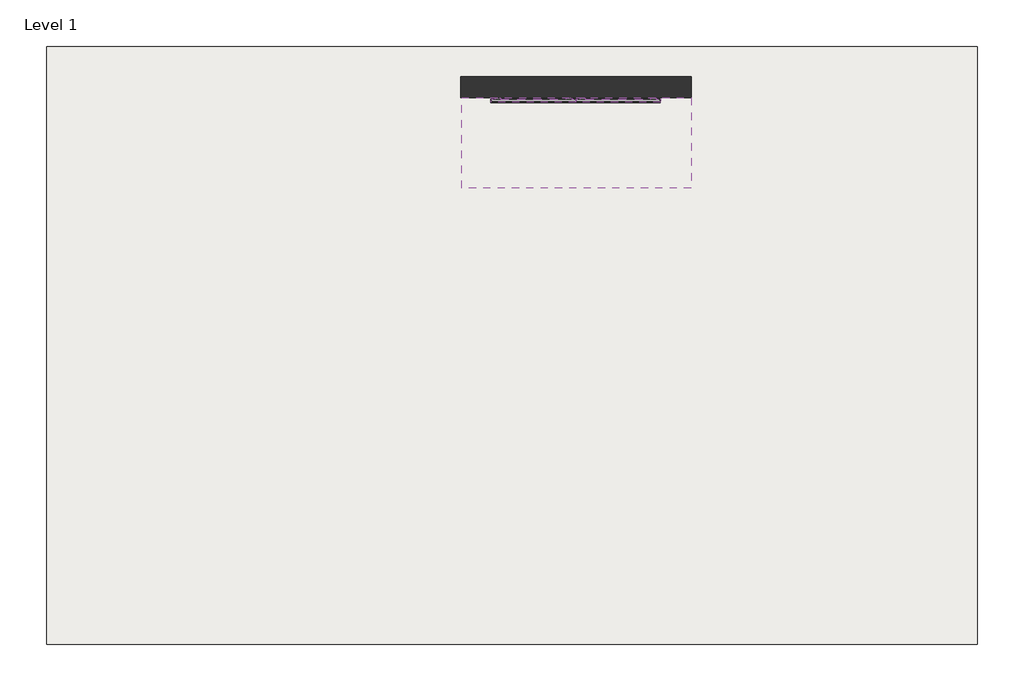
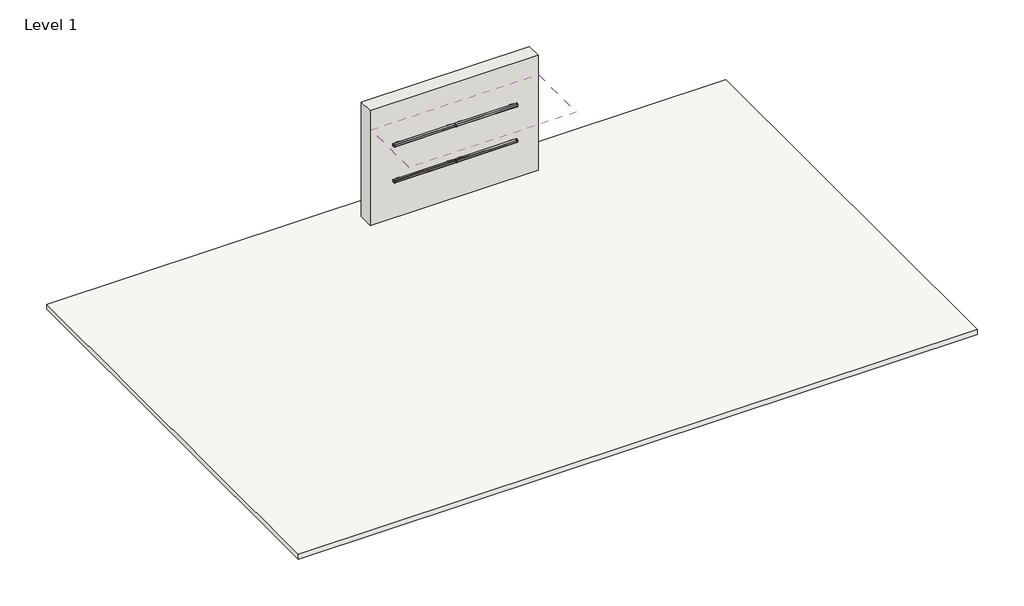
# One storey: 4 light fixtures, 1 covering, 1 slab, 1 wall.
"""IFC4 building model written with IfcOpenShell, lengths in millimetres."""

from ifc_helpers import new_model, si_unit, frame, origin, origin_with_axes, place, context, project, spatial, polyline, outline, extrude, transform, mapped, element, save
from components import lighting_horizontal_mullion_down_axis_extend_2_9a33a1cc, lighting_horizontal_mullion_down_axis_extend_2_30975e11, lighting_horizontal_mullion_out_axis_extend_2_19ae108c, lighting_horizontal_mullion_out_axis_extend_2_a2abfac1

model = new_model("IFC4")

# Units and contexts
model_context = context("Model", 3, world=origin())
ifc_project = project(units=[si_unit("LENGTHUNIT", "METRE", prefix="MILLI")], contexts=[model_context])

# Site, building, storey
site = spatial("IfcSite", under=ifc_project)
building = spatial("IfcBuilding", under=site)
storey = spatial("IfcBuildingStorey", under=building, Name="Level 1", Elevation=0.0)

# Covering
placement = place(None, origin())
element("IfcCovering", 1, ObjectType="Plain", at=placement, inside=storey, context=model_context, shape_type="SweptSolid", body=[
    extrude(outline(polyline([(-3780.5571266, 5992.4697047), (1248.6428734, 5992.4697047), (1248.6428734, 4011.2697047), (-3780.5571266, 4011.2697047), (-3780.5571266, 5992.4697047)])), frame((0.0, 0.0, 3048.0), z_axis=(0.0, 0.0, 1.0), x_axis=(1.0, 0.0, 0.0)), (0.0, 0.0, 1.0), 12.7),
])

# Light fixtures
lighting_horizontal_mullion_down_axis_extend_2_shape = lighting_horizontal_mullion_down_axis_extend_2_9a33a1cc(model_context)
element("IfcLightFixture", 2, ObjectType="Lighting-Horizontal Mullion Down-Axis-Extend_2 : EX2WD-900-80-35-SO-4", at=placement, inside=storey, context=model_context, shape_type="MappedRepresentation", body=[
    mapped(lighting_horizontal_mullion_down_axis_extend_2_shape, transform((-2203.3542704, 5992.4697047, 2323.6), x_axis=(1.0, 0.0, 0.0), y_axis=(0.0, 0.0, 1.0), z_axis=(0.0, -1.0, 0.0))),
])
lighting_horizontal_mullion_down_axis_extend_2_2_shape = lighting_horizontal_mullion_down_axis_extend_2_30975e11(model_context)
element("IfcLightFixture", 3, ObjectType="Lighting-Horizontal Mullion Down-Axis-Extend_2 : EX2WD-900-80-35-SO-4", at=placement, inside=storey, context=model_context, shape_type="MappedRepresentation", body=[
    mapped(lighting_horizontal_mullion_down_axis_extend_2_2_shape, transform((-356.2408704, 5992.4697047, 2323.6), x_axis=(1.0, 0.0, 0.0), y_axis=(0.0, 0.0, 1.0), z_axis=(0.0, -1.0, 0.0))),
])
lighting_horizontal_mullion_out_axis_extend_2_shape = lighting_horizontal_mullion_out_axis_extend_2_19ae108c(model_context)
element("IfcLightFixture", 4, ObjectType="Lighting-Horizontal Mullion Out-Axis-Extend 2 : EX2WD-900-80-35-SO-4", at=placement, inside=storey, context=model_context, shape_type="MappedRepresentation", body=[
    mapped(lighting_horizontal_mullion_out_axis_extend_2_shape, transform((-2205.7571266, 5992.4697047, 1192.2125), x_axis=(1.0, 0.0, 0.0), y_axis=(0.0, 0.0, 1.0), z_axis=(0.0, -1.0, 0.0))),
])
lighting_horizontal_mullion_out_axis_extend_2_2_shape = lighting_horizontal_mullion_out_axis_extend_2_a2abfac1(model_context)
element("IfcLightFixture", 5, ObjectType="Lighting-Horizontal Mullion Out-Axis-Extend 2 : EX2WD-900-80-35-SO-4", at=placement, inside=storey, context=model_context, shape_type="MappedRepresentation", body=[
    mapped(lighting_horizontal_mullion_out_axis_extend_2_2_shape, transform((-358.6437266, 5992.4697047, 1192.2125), x_axis=(1.0, 0.0, 0.0), y_axis=(0.0, 0.0, 1.0), z_axis=(0.0, -1.0, 0.0))),
])

# Slab
element("IfcSlab", 6, ObjectType="Generic 150mm", at=placement, inside=storey, context=model_context, shape_type="SweptSolid", body=[
    extrude(outline(polyline([(7531.7635568, 7118.573374), (7531.7635568, -6007.2851693), (-12889.8364432, -6007.2851693), (-12889.8364432, 7118.573374), (7531.7635568, 7118.573374)])), frame((0.0, 0.0, -150.0), z_axis=(0.0, 0.0, 1.0), x_axis=(1.0, 0.0, 0.0)), (0.0, 0.0, 1.0), 150.0),
])

# Wall
element("IfcWall", 7, ObjectType="Exterior - Block on Mtl. Stud", at=placement, inside=storey, context=model_context, shape_type="SweptSolid", body=[
    extrude(outline(polyline([(1248.6428734, 5992.4697047), (-3805.9571266, 5992.4697047), (-3805.9571266, 6452.4697047), (1248.6428734, 6452.4697047), (1248.6428734, 5992.4697047)])), origin_with_axes(), (0.0, 0.0, 1.0), 3657.6),
])

save(model, "model.ifc")
